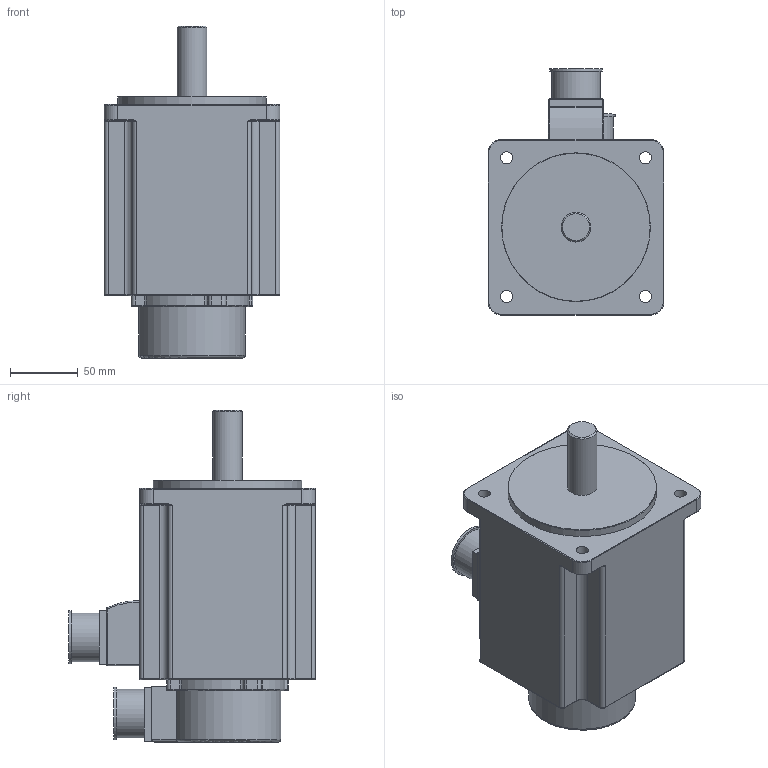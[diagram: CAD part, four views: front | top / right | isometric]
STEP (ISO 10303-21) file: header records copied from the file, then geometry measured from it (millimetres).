
FILE_DESCRIPTION(/* description */ (''),/* implementation_level */ '2;1');
FILE_NAME(/* name */ '130MSL09620（9.55Nm、10Nm）.stp',/* time_stamp */ '2019-11-22T13:46:58+08:00',/* author */ (''),/* organization */ (''),/* preprocessor_version */ 'ST-DEVELOPER v16',/* originating_system */ 'SIEMENS PLM Software NX 10.0',/* authorisation */ '');
FILE_SCHEMA (('CONFIG_CONTROL_DESIGN'));
Length unit declared in the file: millimetre
Products named in the file (1): 130MSL09620（9.55Nm、10Nm）
Bounding box: 130 x 182.5 x 245.5 mm (x, y, z)
Volume: 2615074.6 mm3; surface area: 136752.9 mm2
Topology: 1 solids, 1 shells, 254 faces, 605 edges, 343 vertices
Faces by surface type: cylinder 117, plane 60, torus 55, sphere 12, bspline 8, cone 2
Full cylindrical faces by diameter (mm): 9 x4, 22 x1, 36 x2, 39 x2, 110 x1
Entity records: 7294 total; most frequent: CARTESIAN_POINT 1396, DIRECTION 1339, ORIENTED_EDGE 1138, EDGE_CURVE 569, AXIS2_PLACEMENT_3D 545, VERTEX_POINT 337, CIRCLE 296, EDGE_LOOP 282
